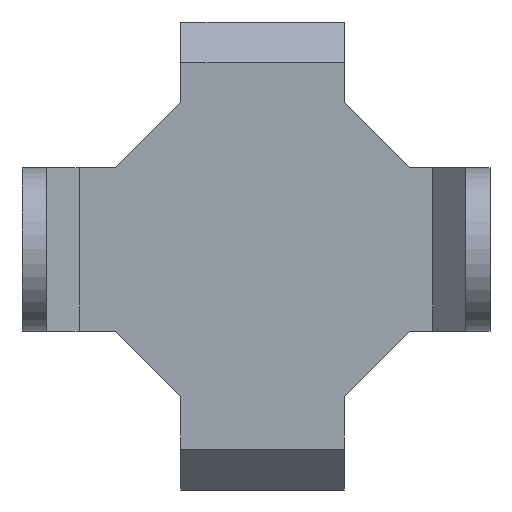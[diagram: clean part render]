
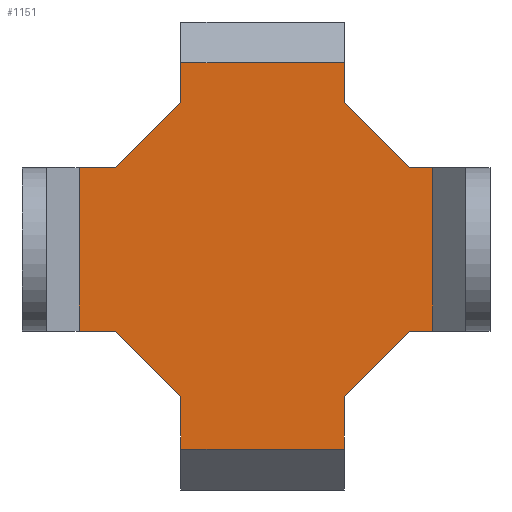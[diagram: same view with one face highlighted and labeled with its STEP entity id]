
A CAD part, left-side view. The second image highlights one B-rep face of the part: STEP entity #1151.
In plain terms, the highlighted planar face has unit normal (-1, 0, 0).
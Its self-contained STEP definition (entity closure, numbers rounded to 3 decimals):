
#129=FACE_OUTER_BOUND('',#187,.T.);
#187=EDGE_LOOP('',(#800,#801,#802,#803,#804,#805,#806,#807,#808,#809,#810,
#811,#812,#813,#814,#815));
#284=LINE('',#1651,#400);
#287=LINE('',#1657,#403);
#295=LINE('',#1673,#411);
#296=LINE('',#1675,#412);
#297=LINE('',#1677,#413);
#298=LINE('',#1679,#414);
#299=LINE('',#1681,#415);
#300=LINE('',#1683,#416);
#301=LINE('',#1685,#417);
#302=LINE('',#1687,#418);
#303=LINE('',#1689,#419);
#304=LINE('',#1691,#420);
#305=LINE('',#1693,#421);
#306=LINE('',#1695,#422);
#307=LINE('',#1697,#423);
#308=LINE('',#1698,#424);
#400=VECTOR('',#1320,10.);
#403=VECTOR('',#1325,10.);
#411=VECTOR('',#1335,10.);
#412=VECTOR('',#1336,10.);
#413=VECTOR('',#1337,10.);
#414=VECTOR('',#1338,10.);
#415=VECTOR('',#1339,10.);
#416=VECTOR('',#1340,10.);
#417=VECTOR('',#1341,10.);
#418=VECTOR('',#1342,10.);
#419=VECTOR('',#1343,10.);
#420=VECTOR('',#1344,10.);
#421=VECTOR('',#1345,10.);
#422=VECTOR('',#1346,10.);
#423=VECTOR('',#1347,10.);
#424=VECTOR('',#1348,10.);
#516=VERTEX_POINT('',#1648);
#517=VERTEX_POINT('',#1650);
#519=VERTEX_POINT('',#1656);
#526=VERTEX_POINT('',#1672);
#527=VERTEX_POINT('',#1674);
#528=VERTEX_POINT('',#1676);
#529=VERTEX_POINT('',#1678);
#530=VERTEX_POINT('',#1680);
#531=VERTEX_POINT('',#1682);
#532=VERTEX_POINT('',#1684);
#533=VERTEX_POINT('',#1686);
#534=VERTEX_POINT('',#1688);
#535=VERTEX_POINT('',#1690);
#536=VERTEX_POINT('',#1692);
#537=VERTEX_POINT('',#1694);
#538=VERTEX_POINT('',#1696);
#624=EDGE_CURVE('',#516,#517,#284,.T.);
#627=EDGE_CURVE('',#519,#517,#287,.T.);
#635=EDGE_CURVE('',#516,#526,#295,.T.);
#636=EDGE_CURVE('',#527,#526,#296,.T.);
#637=EDGE_CURVE('',#527,#528,#297,.T.);
#638=EDGE_CURVE('',#529,#528,#298,.T.);
#639=EDGE_CURVE('',#529,#530,#299,.T.);
#640=EDGE_CURVE('',#531,#530,#300,.T.);
#641=EDGE_CURVE('',#531,#532,#301,.T.);
#642=EDGE_CURVE('',#533,#532,#302,.T.);
#643=EDGE_CURVE('',#533,#534,#303,.T.);
#644=EDGE_CURVE('',#535,#534,#304,.T.);
#645=EDGE_CURVE('',#535,#536,#305,.T.);
#646=EDGE_CURVE('',#537,#536,#306,.T.);
#647=EDGE_CURVE('',#537,#538,#307,.T.);
#648=EDGE_CURVE('',#519,#538,#308,.T.);
#800=ORIENTED_EDGE('',*,*,#624,.F.);
#801=ORIENTED_EDGE('',*,*,#635,.T.);
#802=ORIENTED_EDGE('',*,*,#636,.F.);
#803=ORIENTED_EDGE('',*,*,#637,.T.);
#804=ORIENTED_EDGE('',*,*,#638,.F.);
#805=ORIENTED_EDGE('',*,*,#639,.T.);
#806=ORIENTED_EDGE('',*,*,#640,.F.);
#807=ORIENTED_EDGE('',*,*,#641,.T.);
#808=ORIENTED_EDGE('',*,*,#642,.F.);
#809=ORIENTED_EDGE('',*,*,#643,.T.);
#810=ORIENTED_EDGE('',*,*,#644,.F.);
#811=ORIENTED_EDGE('',*,*,#645,.T.);
#812=ORIENTED_EDGE('',*,*,#646,.F.);
#813=ORIENTED_EDGE('',*,*,#647,.T.);
#814=ORIENTED_EDGE('',*,*,#648,.F.);
#815=ORIENTED_EDGE('',*,*,#627,.T.);
#1117=PLANE('',#1211);
#1151=ADVANCED_FACE('',(#129),#1117,.T.);
#1211=AXIS2_PLACEMENT_3D('',#1671,#1333,#1334);
#1320=DIRECTION('',(0.,1.,0.));
#1325=DIRECTION('',(0.,0.,-1.));
#1333=DIRECTION('center_axis',(-1.,0.,0.));
#1334=DIRECTION('ref_axis',(0.,0.,1.));
#1335=DIRECTION('',(0.,0.,1.));
#1336=DIRECTION('',(0.,0.707,-0.707));
#1337=DIRECTION('',(0.,-1.,0.));
#1338=DIRECTION('',(0.,0.,-1.));
#1339=DIRECTION('',(0.,1.,0.));
#1340=DIRECTION('',(0.,-0.707,-0.707));
#1341=DIRECTION('',(0.,0.,1.));
#1342=DIRECTION('',(0.,-1.,0.));
#1343=DIRECTION('',(0.,0.,-1.));
#1344=DIRECTION('',(0.,-0.707,0.707));
#1345=DIRECTION('',(0.,1.,0.));
#1346=DIRECTION('',(0.,0.,1.));
#1347=DIRECTION('',(0.,-1.,0.));
#1348=DIRECTION('',(0.,0.707,0.707));
#1648=CARTESIAN_POINT('',(24.,-10.,-24.5));
#1650=CARTESIAN_POINT('',(24.,10.,-24.5));
#1651=CARTESIAN_POINT('',(24.,0.4,-24.5));
#1656=CARTESIAN_POINT('',(24.,10.,-18.));
#1657=CARTESIAN_POINT('',(24.,10.,-14.633));
#1671=CARTESIAN_POINT('Origin',(24.,0.8,0.233));
#1672=CARTESIAN_POINT('',(24.,-10.,-18.));
#1673=CARTESIAN_POINT('',(24.,-10.,-14.633));
#1674=CARTESIAN_POINT('',(24.,-18.,-10.));
#1675=CARTESIAN_POINT('',(24.,-13.858,-14.142));
#1676=CARTESIAN_POINT('',(24.,-20.9,-10.));
#1677=CARTESIAN_POINT('',(24.,-12.05,-10.));
#1678=CARTESIAN_POINT('',(24.,-20.9,10.));
#1679=CARTESIAN_POINT('',(24.,-20.9,0.117));
#1680=CARTESIAN_POINT('',(24.,-18.,10.));
#1681=CARTESIAN_POINT('',(24.,-12.05,10.));
#1682=CARTESIAN_POINT('',(24.,-10.,18.));
#1683=CARTESIAN_POINT('',(24.,-13.742,14.258));
#1684=CARTESIAN_POINT('',(24.,-10.,22.9));
#1685=CARTESIAN_POINT('',(24.,-10.,12.567));
#1686=CARTESIAN_POINT('',(24.,10.,22.9));
#1687=CARTESIAN_POINT('',(24.,0.4,22.9));
#1688=CARTESIAN_POINT('',(24.,10.,18.));
#1689=CARTESIAN_POINT('',(24.,10.,12.567));
#1690=CARTESIAN_POINT('',(24.,18.,10.));
#1691=CARTESIAN_POINT('',(24.,14.142,13.858));
#1692=CARTESIAN_POINT('',(24.,22.5,10.));
#1693=CARTESIAN_POINT('',(24.,-12.05,10.));
#1694=CARTESIAN_POINT('',(24.,22.5,-10.));
#1695=CARTESIAN_POINT('',(24.,22.5,0.117));
#1696=CARTESIAN_POINT('',(24.,18.,-10.));
#1697=CARTESIAN_POINT('',(24.,-12.05,-10.));
#1698=CARTESIAN_POINT('',(24.,14.258,-13.742));
